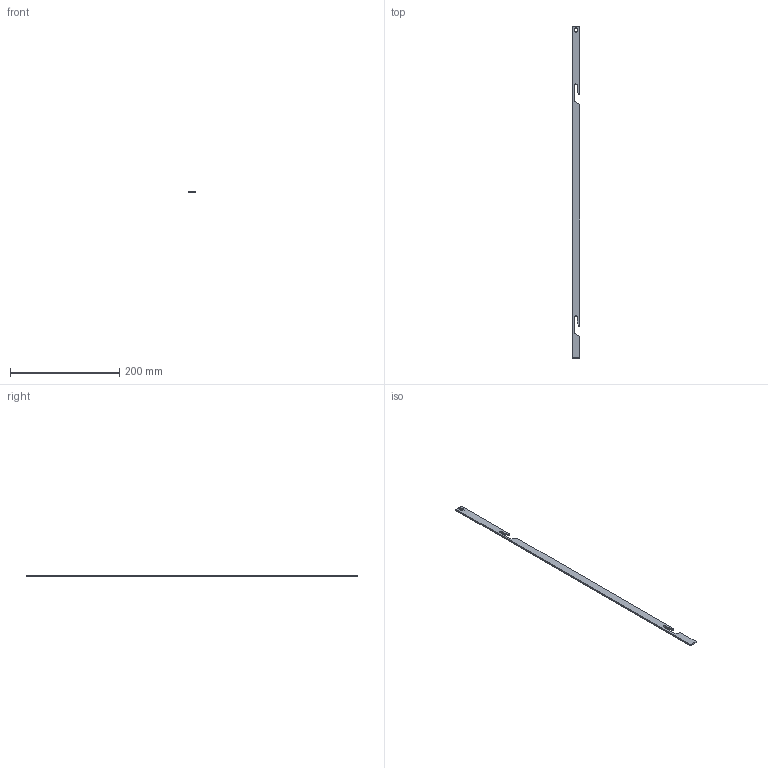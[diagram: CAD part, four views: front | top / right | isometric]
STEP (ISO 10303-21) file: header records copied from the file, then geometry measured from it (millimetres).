
FILE_DESCRIPTION (( 'STEP AP214' ), '1' );
FILE_NAME ('PP48-601.STEP', '2016-09-08T08:23:38', ( '' ), ( '' ), 'SwSTEP 2.0', 'SolidWorks 2015', '' );
FILE_SCHEMA (( 'AUTOMOTIVE_DESIGN' ));
Length unit declared in the file: millimetre
Products named in the file (1): PP48-601
Bounding box: 14 x 608.5 x 3 mm (x, y, z)
Volume: 23974.9 mm3; surface area: 20102.2 mm2
Topology: 1 solids, 1 shells, 29 faces, 81 edges, 54 vertices
Faces by surface type: plane 18, cylinder 11
Entity records: 975 total; most frequent: CARTESIAN_POINT 165, DIRECTION 163, ORIENTED_EDGE 162, EDGE_CURVE 81, LINE 59, VECTOR 59, VERTEX_POINT 54, AXIS2_PLACEMENT_3D 52
